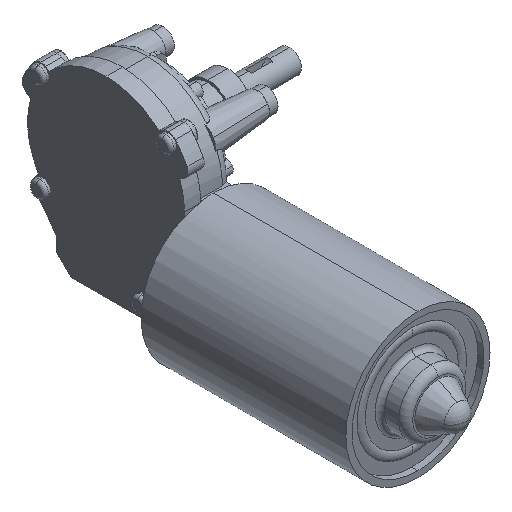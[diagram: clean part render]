
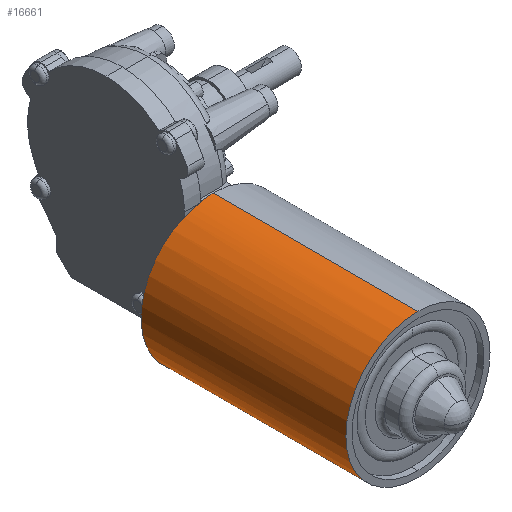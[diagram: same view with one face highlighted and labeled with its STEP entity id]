
A CAD part, isometric view. The second image highlights one B-rep face of the part: STEP entity #16661.
In plain terms, the highlighted cylindrical face has radius 30.6 mm (diameter 61.2 mm), a partial arc.
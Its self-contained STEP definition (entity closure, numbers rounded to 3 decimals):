
#242 = ORIENTED_EDGE ( 'NONE', *, *, #5338, .T. ) ;
#465 = CARTESIAN_POINT ( 'NONE',  ( -5.6, 0., 30.083 ) ) ;
#512 = CARTESIAN_POINT ( 'NONE',  ( -5.6, 126.755, 30.083 ) ) ;
#647 = VERTEX_POINT ( 'NONE', #4994 ) ;
#782 = ORIENTED_EDGE ( 'NONE', *, *, #1123, .F. ) ;
#981 = DIRECTION ( 'NONE',  ( 0., -1., 0. ) ) ;
#1123 = EDGE_CURVE ( 'NONE', #4043, #2662, #9333, .T. ) ;
#1332 = VERTEX_POINT ( 'NONE', #13008 ) ;
#1400 = VERTEX_POINT ( 'NONE', #10474 ) ;
#1404 = VERTEX_POINT ( 'NONE', #7228 ) ;
#1995 = CARTESIAN_POINT ( 'NONE',  ( 0., 40.055, 30.6 ) ) ;
#2148 = CYLINDRICAL_SURFACE ( 'NONE', #8201, 30.6 ) ;
#2447 = LINE ( 'NONE', #15320, #8340 ) ;
#2662 = VERTEX_POINT ( 'NONE', #1995 ) ;
#2834 = AXIS2_PLACEMENT_3D ( 'NONE', #4252, #20269, #3832 ) ;
#2900 = ORIENTED_EDGE ( 'NONE', *, *, #6064, .T. ) ;
#2990 = VECTOR ( 'NONE', #11744, 1000. ) ;
#3528 = CARTESIAN_POINT ( 'NONE',  ( 0., 40.055, 0. ) ) ;
#3548 = AXIS2_PLACEMENT_3D ( 'NONE', #17875, #17770, #8112 ) ;
#3812 = EDGE_CURVE ( 'NONE', #1404, #1400, #16266, .T. ) ;
#3832 = DIRECTION ( 'NONE',  ( 0., 0., -1. ) ) ;
#4043 = VERTEX_POINT ( 'NONE', #4451 ) ;
#4059 = AXIS2_PLACEMENT_3D ( 'NONE', #3528, #17880, #8425 ) ;
#4252 = CARTESIAN_POINT ( 'NONE',  ( 0., 127.055, 0. ) ) ;
#4451 = CARTESIAN_POINT ( 'NONE',  ( 0., 127.055, 30.6 ) ) ;
#4527 = CARTESIAN_POINT ( 'NONE',  ( 0., 0., -30.6 ) ) ;
#4784 = EDGE_CURVE ( 'NONE', #2662, #647, #5386, .T. ) ;
#4994 = CARTESIAN_POINT ( 'NONE',  ( 0., 40.055, -30.6 ) ) ;
#5274 = CARTESIAN_POINT ( 'NONE',  ( 0., 0., 0. ) ) ;
#5298 = EDGE_CURVE ( 'NONE', #16897, #647, #17201, .T. ) ;
#5338 = EDGE_CURVE ( 'NONE', #4043, #10435, #14423, .T. ) ;
#5386 = CIRCLE ( 'NONE', #4059, 30.6 ) ;
#6064 = EDGE_CURVE ( 'NONE', #1400, #1332, #2447, .T. ) ;
#6096 = DIRECTION ( 'NONE',  ( 0., -1., 0. ) ) ;
#6489 = CARTESIAN_POINT ( 'NONE',  ( -5.6, 126.755, 30.083 ) ) ;
#6588 = CARTESIAN_POINT ( 'NONE',  ( -5.744, 126.755, 30.056 ) ) ;
#6651 = ORIENTED_EDGE ( 'NONE', *, *, #7517, .T. ) ;
#7228 = CARTESIAN_POINT ( 'NONE',  ( -6.03, 126.755, 30. ) ) ;
#7464 = DIRECTION ( 'NONE',  ( 0., -1., 0. ) ) ;
#7517 = EDGE_CURVE ( 'NONE', #1332, #16897, #12527, .T. ) ;
#8048 = VECTOR ( 'NONE', #6096, 1000. ) ;
#8099 = DIRECTION ( 'NONE',  ( 0., 0., -1. ) ) ;
#8112 = DIRECTION ( 'NONE',  ( 0., 0., 1. ) ) ;
#8201 = AXIS2_PLACEMENT_3D ( 'NONE', #5274, #19627, #8099 ) ;
#8301 = FACE_OUTER_BOUND ( 'NONE', #16034, .T. ) ;
#8340 = VECTOR ( 'NONE', #16786, 1000. ) ;
#8425 = DIRECTION ( 'NONE',  ( 0., 0., -1. ) ) ;
#8811 = B_SPLINE_CURVE_WITH_KNOTS ( 'NONE', 3,
 ( #6489, #6588, #12976, #12876 ),
 .UNSPECIFIED., .F., .F.,
 ( 4, 4 ),
 ( 0.109, 0.109 ),
 .UNSPECIFIED. ) ;
#8882 = ORIENTED_EDGE ( 'NONE', *, *, #17425, .T. ) ;
#9333 = LINE ( 'NONE', #19091, #13906 ) ;
#9760 = CARTESIAN_POINT ( 'NONE',  ( -5.6, 127.055, 30.083 ) ) ;
#10036 = ORIENTED_EDGE ( 'NONE', *, *, #11578, .F. ) ;
#10435 = VERTEX_POINT ( 'NONE', #9760 ) ;
#10474 = CARTESIAN_POINT ( 'NONE',  ( -12.5, 126.755, 27.93 ) ) ;
#11191 = ORIENTED_EDGE ( 'NONE', *, *, #5298, .T. ) ;
#11227 = VERTEX_POINT ( 'NONE', #512 ) ;
#11578 = EDGE_CURVE ( 'NONE', #11227, #10435, #11849, .T. ) ;
#11744 = DIRECTION ( 'NONE',  ( 0., 1., 0. ) ) ;
#11849 = LINE ( 'NONE', #465, #2990 ) ;
#12456 = ORIENTED_EDGE ( 'NONE', *, *, #3812, .T. ) ;
#12495 = CARTESIAN_POINT ( 'NONE',  ( 0., 127.055, -30.6 ) ) ;
#12527 = CIRCLE ( 'NONE', #2834, 30.6 ) ;
#12876 = CARTESIAN_POINT ( 'NONE',  ( -6.03, 126.755, 30. ) ) ;
#12976 = CARTESIAN_POINT ( 'NONE',  ( -5.887, 126.755, 30.029 ) ) ;
#13008 = CARTESIAN_POINT ( 'NONE',  ( -12.5, 127.055, 27.93 ) ) ;
#13751 = DIRECTION ( 'NONE',  ( 0., 0., -1. ) ) ;
#13906 = VECTOR ( 'NONE', #7464, 1000. ) ;
#14423 = CIRCLE ( 'NONE', #17438, 30.6 ) ;
#15317 = CARTESIAN_POINT ( 'NONE',  ( 0., 127.055, 0. ) ) ;
#15320 = CARTESIAN_POINT ( 'NONE',  ( -12.5, 0., 27.93 ) ) ;
#16034 = EDGE_LOOP ( 'NONE', ( #782, #242, #10036, #8882, #12456, #2900, #6651, #11191, #20607 ) ) ;
#16266 = CIRCLE ( 'NONE', #3548, 30.6 ) ;
#16661 = ADVANCED_FACE ( 'NONE', ( #8301 ), #2148, .T. ) ;
#16786 = DIRECTION ( 'NONE',  ( 0., 1., 0. ) ) ;
#16897 = VERTEX_POINT ( 'NONE', #12495 ) ;
#17201 = LINE ( 'NONE', #4527, #8048 ) ;
#17425 = EDGE_CURVE ( 'NONE', #11227, #1404, #8811, .T. ) ;
#17438 = AXIS2_PLACEMENT_3D ( 'NONE', #15317, #981, #13751 ) ;
#17770 = DIRECTION ( 'NONE',  ( 0., -1., 0. ) ) ;
#17875 = CARTESIAN_POINT ( 'NONE',  ( 0., 126.755, 0. ) ) ;
#17880 = DIRECTION ( 'NONE',  ( 0., -1., 0. ) ) ;
#19091 = CARTESIAN_POINT ( 'NONE',  ( 0., 0., 30.6 ) ) ;
#19627 = DIRECTION ( 'NONE',  ( 0., -1., 0. ) ) ;
#20269 = DIRECTION ( 'NONE',  ( 0., -1., 0. ) ) ;
#20607 = ORIENTED_EDGE ( 'NONE', *, *, #4784, .F. ) ;
